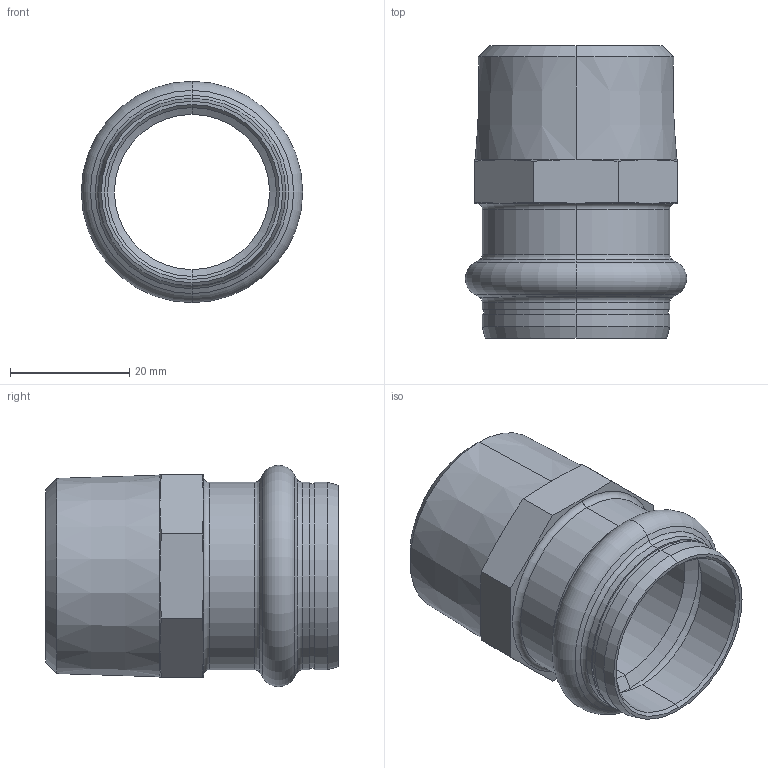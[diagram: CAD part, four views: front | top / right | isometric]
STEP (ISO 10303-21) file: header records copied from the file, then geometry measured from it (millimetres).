
FILE_DESCRIPTION (( 'STEP AP203' ), '1' );
FILE_NAME ('SP4243G Ø28 1.STEP', '2017-04-26T07:49:37', ( '' ), ( '' ), 'SwSTEP 2.0', 'SolidWorks 2016', '' );
FILE_SCHEMA (( 'CONFIG_CONTROL_DESIGN' ));
Length unit declared in the file: millimetre
Products named in the file (1): SP4243G ﾘ28 1
Bounding box: 37.1 x 49 x 37.1 mm (x, y, z)
Volume: 13045.2 mm3; surface area: 10534.4 mm2
Topology: 1 solids, 1 shells, 61 faces, 132 edges, 76 vertices
Faces by surface type: cone 22, cylinder 16, plane 13, torus 10
Entity records: 1769 total; most frequent: CARTESIAN_POINT 354, DIRECTION 302, ORIENTED_EDGE 264, EDGE_CURVE 132, AXIS2_PLACEMENT_3D 128, VERTEX_POINT 76, CIRCLE 66, EDGE_LOOP 66
